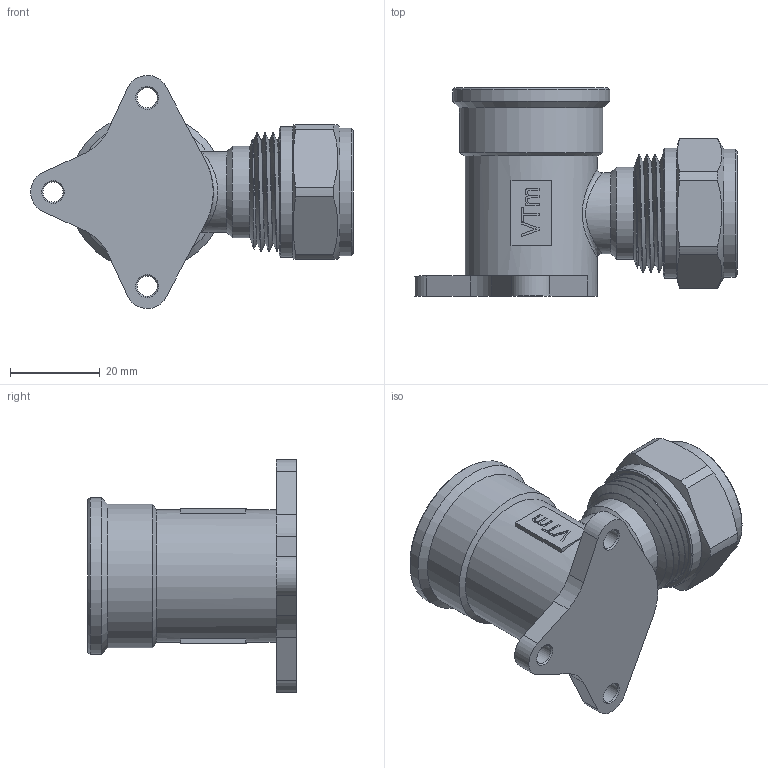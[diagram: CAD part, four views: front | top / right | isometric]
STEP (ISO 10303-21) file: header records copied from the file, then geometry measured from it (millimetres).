
FILE_DESCRIPTION(/* description */ (''),/* implementation_level */ '2;1');
FILE_NAME(/* name */ 'F:\Артём\00000\Работа удаленка\Обжимные фитинги\VTm.354.N.002005.stp',/* time_stamp */ '2020-08-10T15:24:09+03:00',/* author */ ('almis'),/* organization */ (''),/* preprocessor_version */ 'ST-DEVELOPER v18',/* originating_system */ 'Autodesk Inventor 2020',/* authorisation */ '');
FILE_SCHEMA (('AUTOMOTIVE_DESIGN { 1 0 10303 214 3 1 1 }'));
Length unit declared in the file: millimetre
Products named in the file (1): VTm.341.N.202020
Bounding box: 71.96 x 46.5 x 51.98 mm (x, y, z)
Volume: 27341.7 mm3; surface area: 20313.9 mm2
Topology: 1 solids, 2 shells, 359 faces, 1022 edges, 694 vertices
Faces by surface type: plane 173, bspline 71, cylinder 67, cone 25, torus 23
Full cylindrical faces by diameter (mm): 4.5 x3, 11.5 x1, 13.4 x2, 15.75 x4, 18 x1, 19.986 x4, 20.2 x1, 20.5 x1, 20.728 x5, 21 x1, 22.8 x3, 23.201 x1, 24.1 x6, 24.2 x1, 26.4 x3, 27.7 x6, 28.5 x1, 29 x1, 29.5 x1, 32 x1, 35 x1
Entity records: 15263 total; most frequent: CARTESIAN_POINT 6185, ORIENTED_EDGE 2044, DIRECTION 1645, EDGE_CURVE 1022, VERTEX_POINT 695, LINE 561, VECTOR 561, AXIS2_PLACEMENT_3D 542
